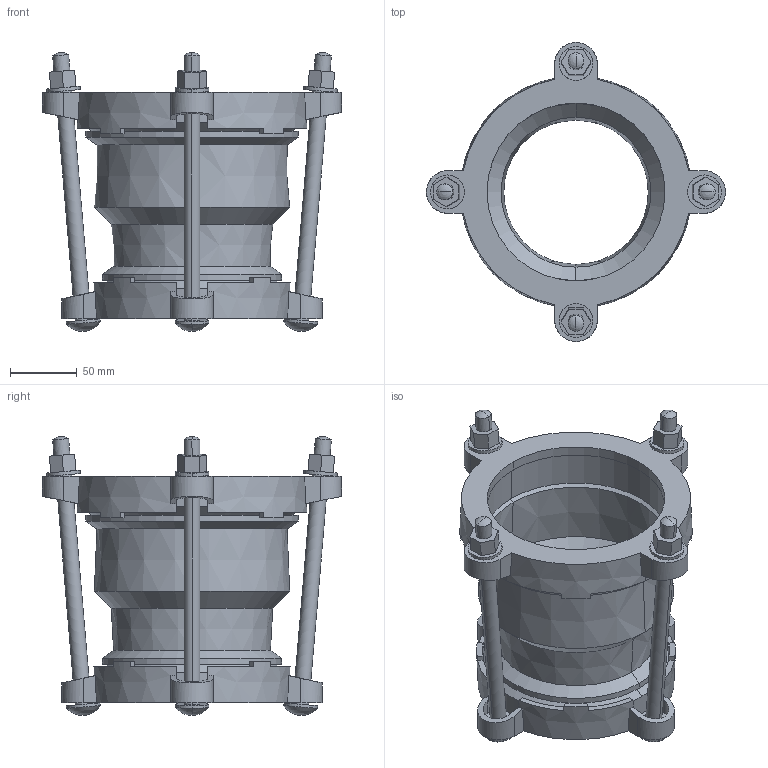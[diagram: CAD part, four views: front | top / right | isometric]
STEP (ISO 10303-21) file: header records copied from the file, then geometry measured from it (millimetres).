
FILE_DESCRIPTION((''),'2;1');
FILE_NAME('BIM_12395_4','2018-10-09T',('MReader'),(''),'CREO PARAMETRIC BY PTC INC, 2016130','CREO PARAMETRIC BY PTC INC, 2016130','');
FILE_SCHEMA(('CONFIG_CONTROL_DESIGN'));
Length unit declared in the file: millimetre
Products named in the file (1): BIM_12395_4
Bounding box: 224.5 x 224.5 x 209.27 mm (x, y, z)
Volume: 857955.3 mm3; surface area: 264091.7 mm2
Topology: 2 solids, 2 shells, 282 faces, 732 edges, 460 vertices
Faces by surface type: plane 122, cylinder 84, cone 60, sphere 16
Entity records: 9167 total; most frequent: CARTESIAN_POINT 2365, ORIENTED_EDGE 1432, DIRECTION 1380, EDGE_CURVE 716, AXIS2_PLACEMENT_3D 526, VERTEX_POINT 460, VECTOR 328, LINE 328
